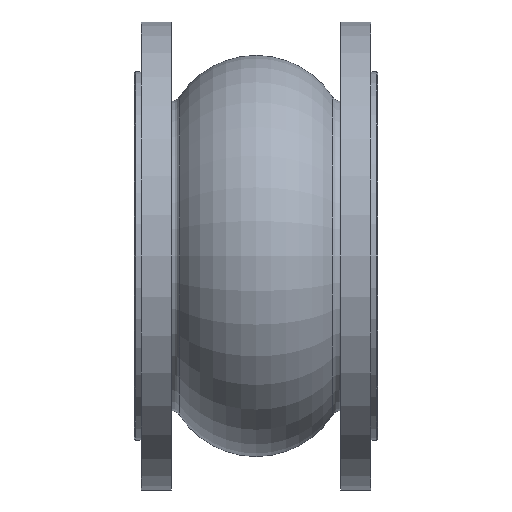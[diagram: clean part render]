
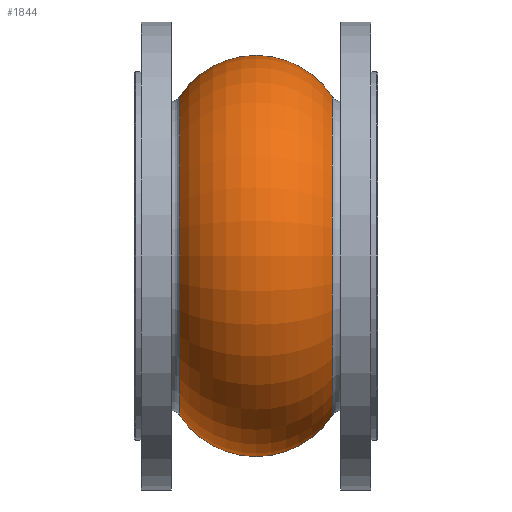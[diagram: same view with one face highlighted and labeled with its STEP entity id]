
A CAD part, front view. The second image highlights one B-rep face of the part: STEP entity #1844.
In plain terms, the highlighted toroidal (fillet/blend) face has major radius 79.302 mm and minor radius 66.395 mm.
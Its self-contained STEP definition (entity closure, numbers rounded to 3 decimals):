
#360 = DIRECTION ( 'NONE',  ( 0., 0., 1. ) ) ;
#361 = DIRECTION ( 'NONE',  ( -1., 0., 0. ) ) ;
#362 = CARTESIAN_POINT ( 'NONE',  ( 55.507, 0., 0. ) ) ;
#363 = AXIS2_PLACEMENT_3D ( 'NONE', #362, #361, #360 ) ;
#393 = CIRCLE ( 'NONE', #363, 115.735 ) ;
#401 = AXIS2_PLACEMENT_3D ( 'NONE', #408, #439, #438 ) ;
#402 = CIRCLE ( 'NONE', #401, 115.735 ) ;
#408 = CARTESIAN_POINT ( 'NONE',  ( -55.507, 0., 0. ) ) ;
#438 = DIRECTION ( 'NONE',  ( 0., 0., 1. ) ) ;
#439 = DIRECTION ( 'NONE',  ( -1., 0., 0. ) ) ;
#474 = CARTESIAN_POINT ( 'NONE',  ( 55.507, 0., 115.735 ) ) ;
#581 = FACE_OUTER_BOUND ( 'NONE', #1898, .T. ) ;
#587 = DIRECTION ( 'NONE',  ( 0., 0., 1. ) ) ;
#588 = DIRECTION ( 'NONE',  ( 0., 1., 0. ) ) ;
#589 = CARTESIAN_POINT ( 'NONE',  ( 0., 0., -79.302 ) ) ;
#590 = AXIS2_PLACEMENT_3D ( 'NONE', #589, #588, #587 ) ;
#593 = CIRCLE ( 'NONE', #590, 66.395 ) ;
#607 = CARTESIAN_POINT ( 'NONE',  ( -55.507, 0., -115.735 ) ) ;
#615 = DIRECTION ( 'NONE',  ( 0., 0., -1. ) ) ;
#616 = DIRECTION ( 'NONE',  ( 0., -1., 0. ) ) ;
#617 = CARTESIAN_POINT ( 'NONE',  ( 0., 0., 79.302 ) ) ;
#618 = AXIS2_PLACEMENT_3D ( 'NONE', #617, #616, #615 ) ;
#619 = CIRCLE ( 'NONE', #618, 66.395 ) ;
#670 = AXIS2_PLACEMENT_3D ( 'NONE', #724, #713, #712 ) ;
#712 = DIRECTION ( 'NONE',  ( 0., 0., 1. ) ) ;
#713 = DIRECTION ( 'NONE',  ( -1., 0., 0. ) ) ;
#719 = TOROIDAL_SURFACE ( 'NONE', #670, 79.302, 66.395 ) ;
#724 = CARTESIAN_POINT ( 'NONE',  ( 0., 0., 0. ) ) ;
#725 = CARTESIAN_POINT ( 'NONE',  ( -55.507, 0., 115.735 ) ) ;
#738 = CARTESIAN_POINT ( 'NONE',  ( 55.507, 0., -115.735 ) ) ;
#1656 = ORIENTED_EDGE ( 'NONE', *, *, #1803, .T. ) ;
#1665 = EDGE_CURVE ( 'NONE', #1816, #1723, #393, .T. ) ;
#1672 = EDGE_CURVE ( 'NONE', #1812, #1828, #402, .T. ) ;
#1723 = VERTEX_POINT ( 'NONE', #474 ) ;
#1803 = EDGE_CURVE ( 'NONE', #1723, #1828, #619, .T. ) ;
#1812 = VERTEX_POINT ( 'NONE', #607 ) ;
#1816 = VERTEX_POINT ( 'NONE', #738 ) ;
#1828 = VERTEX_POINT ( 'NONE', #725 ) ;
#1829 = EDGE_CURVE ( 'NONE', #1816, #1812, #593, .T. ) ;
#1843 = ORIENTED_EDGE ( 'NONE', *, *, #1665, .T. ) ;
#1844 = ADVANCED_FACE ( 'NONE', ( #581 ), #719, .T. ) ;
#1898 = EDGE_LOOP ( 'NONE', ( #1899, #1843, #1656, #2075 ) ) ;
#1899 = ORIENTED_EDGE ( 'NONE', *, *, #1829, .F. ) ;
#2075 = ORIENTED_EDGE ( 'NONE', *, *, #1672, .F. ) ;
